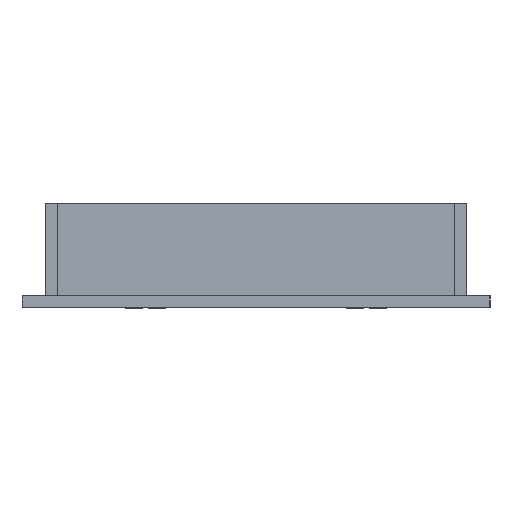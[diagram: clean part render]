
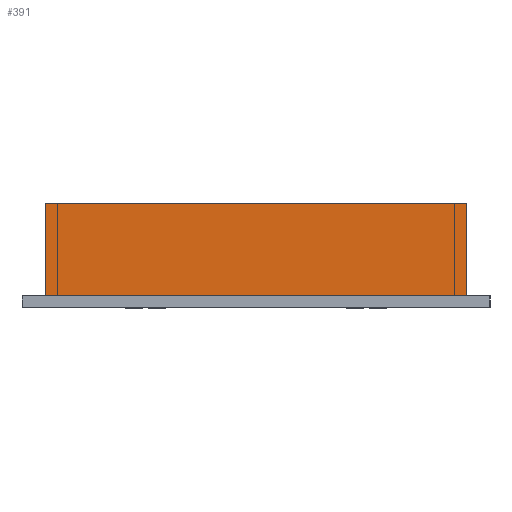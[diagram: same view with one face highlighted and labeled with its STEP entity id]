
A CAD part, left-side view. The second image highlights one B-rep face of the part: STEP entity #391.
In plain terms, the highlighted planar face has unit normal (-1, 0, 0).
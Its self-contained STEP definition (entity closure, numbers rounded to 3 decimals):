
#391=ADVANCED_FACE('',(#727),#5255,.T.);
#727=FACE_OUTER_BOUND('',#1166,.T.);
#1166=EDGE_LOOP('',(#2333,#2334,#2335,#2336));
#2333=ORIENTED_EDGE('',*,*,#3442,.T.);
#2334=ORIENTED_EDGE('',*,*,#3431,.T.);
#2335=ORIENTED_EDGE('',*,*,#3432,.F.);
#2336=ORIENTED_EDGE('',*,*,#3433,.F.);
#3431=EDGE_CURVE('',#4912,#4905,#3929,.T.);
#3432=EDGE_CURVE('',#4906,#4905,#3930,.T.);
#3433=EDGE_CURVE('',#4911,#4906,#3931,.T.);
#3442=EDGE_CURVE('',#4911,#4912,#3940,.T.);
#3929=B_SPLINE_CURVE_WITH_KNOTS('',1,(#13221,#13222),.UNSPECIFIED.,.F.,
 .F.,(2,2),(0.,25.),.UNSPECIFIED.);
#3930=B_SPLINE_CURVE_WITH_KNOTS('',1,(#13223,#13224),.UNSPECIFIED.,.F.,
 .F.,(2,2),(-3248.564,-3134.564),.UNSPECIFIED.);
#3931=B_SPLINE_CURVE_WITH_KNOTS('',1,(#13225,#13226),.UNSPECIFIED.,.F.,
 .F.,(2,2),(0.,25.),.UNSPECIFIED.);
#3940=B_SPLINE_CURVE_WITH_KNOTS('',1,(#13243,#13244),.UNSPECIFIED.,.F.,
 .F.,(2,2),(-3248.564,-3134.564),.UNSPECIFIED.);
#4905=VERTEX_POINT('',#13147);
#4906=VERTEX_POINT('',#13148);
#4911=VERTEX_POINT('',#13153);
#4912=VERTEX_POINT('',#13154);
#5255=PLANE('',#5699);
#5699=AXIS2_PLACEMENT_3D('',#12323,#5964,$);
#5964=DIRECTION('',(-1.,0.,0.));
#12323=CARTESIAN_POINT('',(6.5,-6.5,3.));
#13147=CARTESIAN_POINT('',(6.5,-120.5,28.));
#13148=CARTESIAN_POINT('',(6.5,-6.5,28.));
#13153=CARTESIAN_POINT('',(6.5,-6.5,3.));
#13154=CARTESIAN_POINT('',(6.5,-120.5,3.));
#13221=CARTESIAN_POINT('',(6.5,-120.5,3.));
#13222=CARTESIAN_POINT('',(6.5,-120.5,28.));
#13223=CARTESIAN_POINT('',(6.5,-6.5,28.));
#13224=CARTESIAN_POINT('',(6.5,-120.5,28.));
#13225=CARTESIAN_POINT('',(6.5,-6.5,3.));
#13226=CARTESIAN_POINT('',(6.5,-6.5,28.));
#13243=CARTESIAN_POINT('',(6.5,-6.5,3.));
#13244=CARTESIAN_POINT('',(6.5,-120.5,3.));
